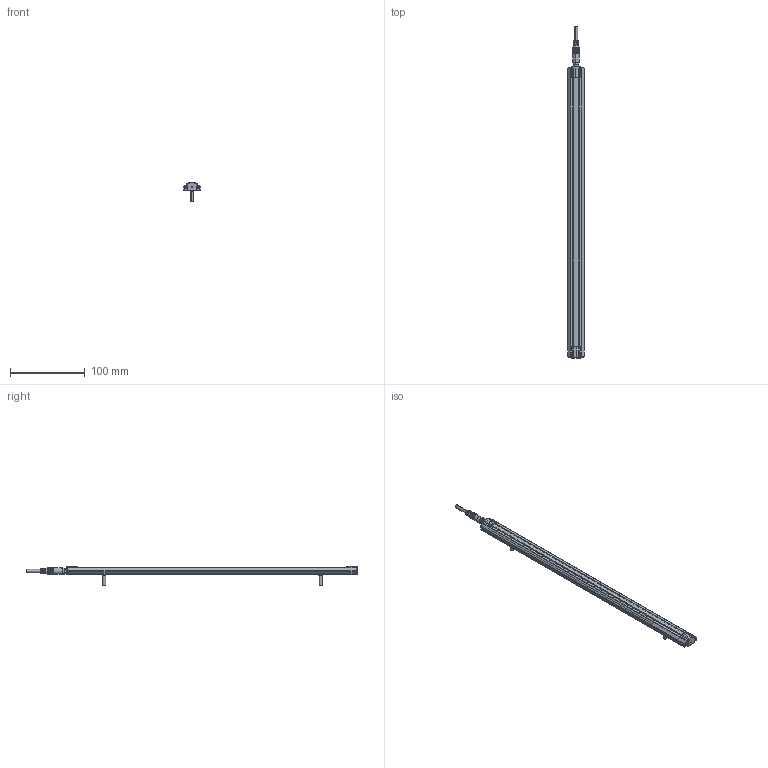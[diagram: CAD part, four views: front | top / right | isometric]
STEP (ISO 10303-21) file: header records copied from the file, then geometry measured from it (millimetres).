
FILE_DESCRIPTION (( 'STEP AP214' ), '1' );
FILE_NAME ('ILGA-B-K2-0390mm.STEP', '2026-04-24T22:54:45', ( '' ), ( '' ), 'SwSTEP 2.0', 'SolidWorks 2025', '' );
FILE_SCHEMA (( 'AUTOMOTIVE_DESIGN' ));
Length unit declared in the file: millimetre
Products named in the file (1): ILGA-B-K2-0390mm
Bounding box: 22.4 x 444.5 x 25.7 mm (x, y, z)
Surface area: 56635.3 mm2 (no closed solid volume)
Topology: 0 solids, 15 shells, 957 faces, 2500 edges, 1551 vertices
Faces by surface type: cylinder 395, plane 358, cone 82, bspline 56, torus 50, sphere 16
Entity records: 42234 total; most frequent: CARTESIAN_POINT 8622, ORIENTED_EDGE 4881, DIRECTION 4808, EDGE_CURVE 2448, AXIS2_PLACEMENT_3D 1841, VERTEX_POINT 1551, VECTOR 1126, LINE 1126
